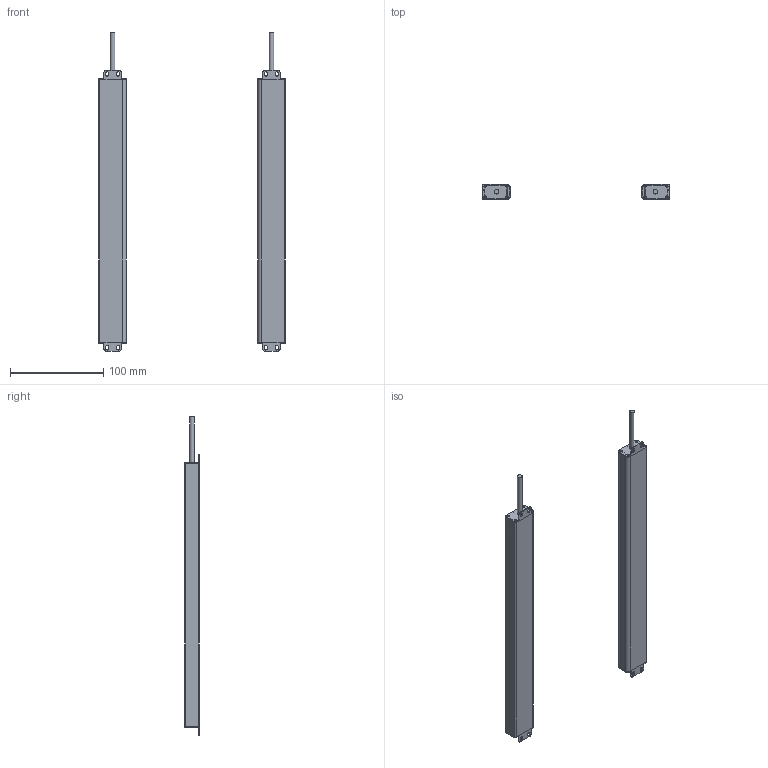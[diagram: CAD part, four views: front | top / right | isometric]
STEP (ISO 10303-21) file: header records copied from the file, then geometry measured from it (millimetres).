
FILE_DESCRIPTION(/* description */ (''),/* implementation_level */ '2;1');
FILE_NAME(/* name */ '1420（16X30ZW).stp',/* time_stamp */ '2020-07-14T19:07:55+08:00',/* author */ (''),/* organization */ (''),/* preprocessor_version */ 'ST-DEVELOPER v16',/* originating_system */ 'SIEMENS PLM Software NX 10.0',/* authorisation */ '');
FILE_SCHEMA (('AP203_CONFIGURATION_CONTROLLED_3D_DESIGN_OF_MECHANICAL_PARTS_AND_ASSEMBLIES_MIM_LF { 1 0 10303 403 2 1 2}'));
Length unit declared in the file: millimetre
Products named in the file (1): Admi58A03253m7e9
Bounding box: 200 x 16 x 341.5 mm (x, y, z)
Volume: 83771.7 mm3; surface area: 124383.8 mm2
Topology: 10 solids, 10 shells, 296 faces, 830 edges, 554 vertices
Faces by surface type: plane 160, cylinder 136
Full cylindrical faces by diameter (mm): 5 x2
Entity records: 9760 total; most frequent: DIRECTION 1692, CARTESIAN_POINT 1675, ORIENTED_EDGE 1652, EDGE_CURVE 826, AXIS2_PLACEMENT_3D 569, LINE 554, VECTOR 554, VERTEX_POINT 552
